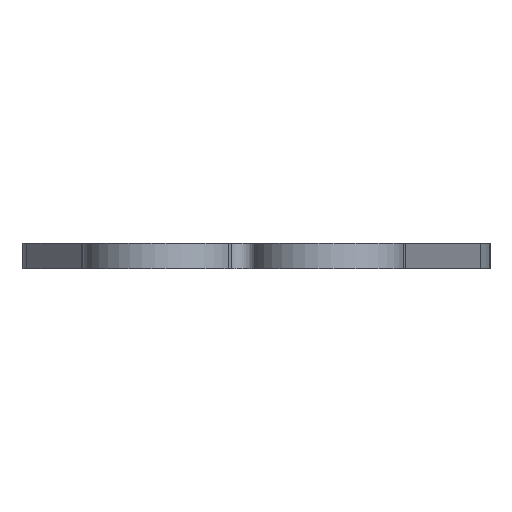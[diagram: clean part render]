
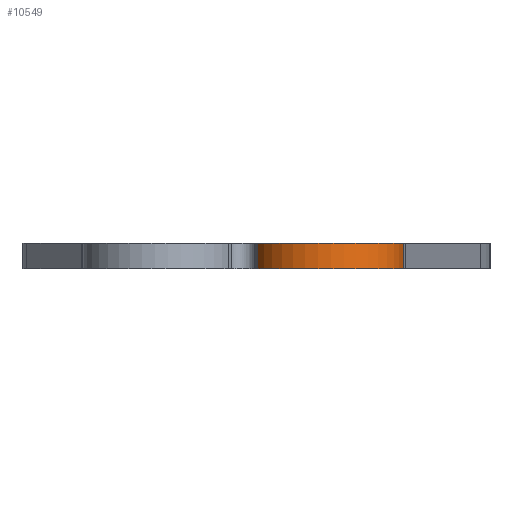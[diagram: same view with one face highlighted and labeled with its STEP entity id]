
A CAD part, left-side view. The second image highlights one B-rep face of the part: STEP entity #10549.
In plain terms, the highlighted cylindrical face has radius 5.9 mm (diameter 11.8 mm), a partial arc.
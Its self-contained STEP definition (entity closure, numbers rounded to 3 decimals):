
#1374=CARTESIAN_POINT('',(-217.449,-1.145,2.0));
#1375=VERTEX_POINT('',#1374);
#1382=CARTESIAN_POINT('',(-214.973,-12.4,2.0));
#1383=VERTEX_POINT('',#1382);
#1384=CARTESIAN_POINT('',(-214.973,-6.5,2.0));
#1385=DIRECTION('',(0.0,0.0,-1.0));
#1386=DIRECTION('',(-0.42,0.908,0.0));
#1387=AXIS2_PLACEMENT_3D('',#1384,#1385,#1386);
#1388=CIRCLE('',#1387,5.9);
#1389=EDGE_CURVE('',#1383,#1375,#1388,.T.);
#6891=CARTESIAN_POINT('',(-214.973,-12.4,0.0));
#6892=VERTEX_POINT('',#6891);
#6899=CARTESIAN_POINT('',(-217.449,-1.145,0.0));
#6900=VERTEX_POINT('',#6899);
#6901=CARTESIAN_POINT('',(-214.973,-6.5,0.0));
#6902=DIRECTION('',(0.0,0.0,1.0));
#6903=DIRECTION('',(-0.42,0.908,0.0));
#6904=AXIS2_PLACEMENT_3D('',#6901,#6902,#6903);
#6905=CIRCLE('',#6904,5.9);
#6906=EDGE_CURVE('',#6900,#6892,#6905,.T.);
#10523=CARTESIAN_POINT('',(-214.973,-12.4,0.0));
#10524=DIRECTION('',(0.0,0.0,1.0));
#10525=VECTOR('',#10524,2.0);
#10526=LINE('',#10523,#10525);
#10527=EDGE_CURVE('',#6892,#1383,#10526,.T.);
#10533=CARTESIAN_POINT('',(-214.973,-6.5,0.0));
#10534=DIRECTION('',(0.0,0.0,1.0));
#10535=DIRECTION('',(-0.42,0.908,0.0));
#10536=AXIS2_PLACEMENT_3D('',#10533,#10534,#10535);
#10537=CYLINDRICAL_SURFACE('',#10536,5.9);
#10538=ORIENTED_EDGE('',*,*,#1389,.T.);
#10539=CARTESIAN_POINT('',(-217.449,-1.145,0.0));
#10540=DIRECTION('',(0.0,0.0,1.0));
#10541=VECTOR('',#10540,2.0);
#10542=LINE('',#10539,#10541);
#10543=EDGE_CURVE('',#6900,#1375,#10542,.T.);
#10544=ORIENTED_EDGE('',*,*,#10543,.F.);
#10545=ORIENTED_EDGE('',*,*,#6906,.T.);
#10546=ORIENTED_EDGE('',*,*,#10527,.T.);
#10547=EDGE_LOOP('',(#10538,#10544,#10545,#10546));
#10548=FACE_OUTER_BOUND('',#10547,.T.);
#10549=ADVANCED_FACE('',(#10548),#10537,.T.);
